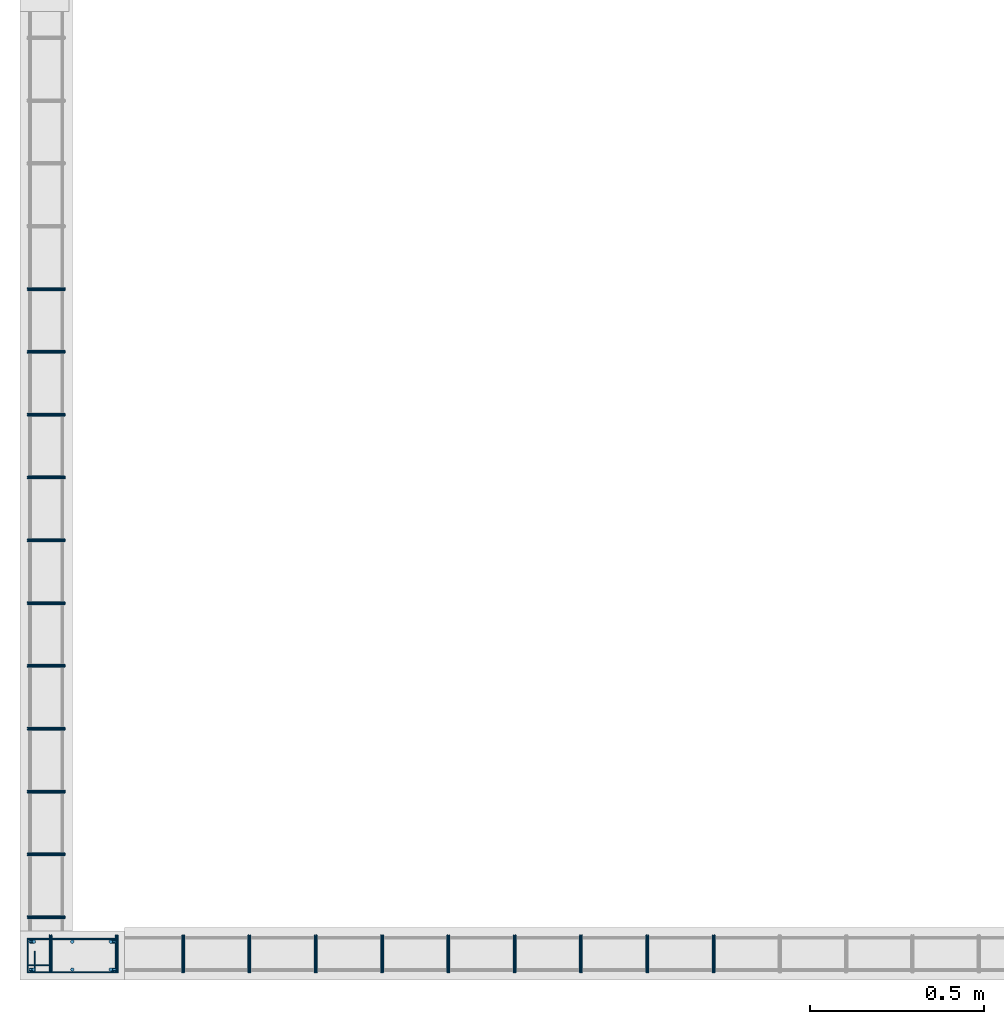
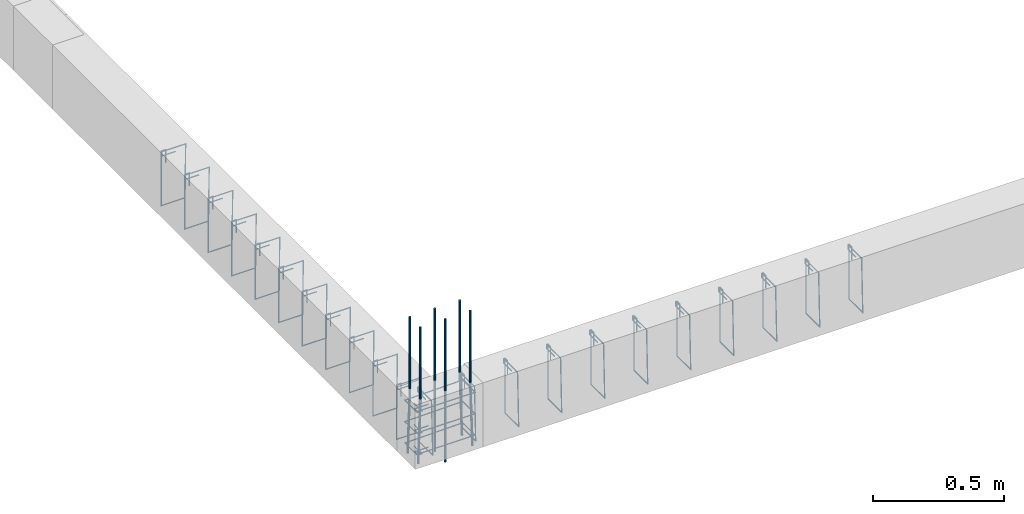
# One storey, part 17 of 150: 31 reinforcing bars.
"""IFC4 building model written with IfcOpenShell, lengths in centimetres."""

import ifcopenshell
import ifcopenshell.guid

model = None  # the IFC model being written
_history = None  # IfcOwnerHistory: only IFC2X3 demands one
_inside = {}  # id of a spatial element -> (the spatial element, [elements in it])
_under = {}  # id of a project, library or spatial element -> (it, [spatial elements below it])
_declared = {}  # id of a project -> (the project, [libraries it declares])
_typed = {}  # id of a type object -> (the type object, [elements of that type])
_made_of = {}  # id of a material, layer set ... -> (it, [elements and type objects made of it])


def new_model(schema):
    """Start an empty IFC model of exactly this schema.

    Asked for "IFC4X3", IfcOpenShell would pick the latest addendum, in which some entities
    have other attributes; the version numbers below select the first issue.
    IFC2X3 requires an IfcOwnerHistory on every rooted entity: one is made here for all.
    """
    global model, _history
    if schema == "IFC4X3":
        model = ifcopenshell.file(schema_version=(4, 3, 0, 0))
    else:
        model = ifcopenshell.file(schema=schema)
    _inside.clear()
    _under.clear()
    _declared.clear()
    _typed.clear()
    _made_of.clear()
    _history = None
    if model.schema == "IFC2X3":
        org = make("IfcOrganization", Name="unknown")
        user = make(
            "IfcPersonAndOrganization",
            ThePerson=make("IfcPerson", FamilyName="unknown"),
            TheOrganization=org,
        )
        app = make(
            "IfcApplication",
            ApplicationDeveloper=org,
            Version="unknown",
            ApplicationFullName="unknown",
            ApplicationIdentifier="unknown",
        )
        _history = make(
            "IfcOwnerHistory",
            OwningUser=user,
            OwningApplication=app,
            ChangeAction="ADDED",
            CreationDate=0,
        )
    return model


def make(cls, **values):
    """One entity of the class cls with the attributes given. An attribute that is None is left unset."""
    return model.create_entity(
        cls, **{name: value for name, value in values.items() if value is not None}
    )


def entity(cls, *values):
    """Any entity or typed value of the class cls, its attributes in the order of the schema. None: left unset."""
    e = model.create_entity(cls)
    for i, value in enumerate(values):
        if value is not None:
            e[i] = value
    return e


def rooted(cls, **values):
    """An entity with a GlobalId (a new one), such as an element, a storey or a relation."""
    return make(cls, GlobalId=ifcopenshell.guid.new(), OwnerHistory=_history, **values)


def si_unit(unit_type, name, prefix=None):
    """IfcSIUnit, for example si_unit("LENGTHUNIT", "METRE", prefix="MILLI")."""
    return make("IfcSIUnit", UnitType=unit_type, Prefix=prefix, Name=name)


def derived_unit(unit_type, elements):
    """IfcDerivedUnit: a product of units, each with its exponent."""
    return make(
        "IfcDerivedUnit",
        Elements=[
            make("IfcDerivedUnitElement", Unit=unit, Exponent=power)
            for unit, power in elements
        ],
        UnitType=unit_type,
    )


def assignment(units):
    """IfcUnitAssignment: the units of a project."""
    return None if units is None else make("IfcUnitAssignment", Units=units)


def point(xyz):
    """IfcCartesianPoint."""
    return None if xyz is None else make("IfcCartesianPoint", Coordinates=xyz)


def direction(xyz):
    """IfcDirection."""
    return None if xyz is None else make("IfcDirection", DirectionRatios=xyz)


def frame(location, z_axis=None, x_axis=None):
    """IfcAxis2Placement3D, a coordinate frame: its origin and axes. An axis left out is left unset."""
    return make(
        "IfcAxis2Placement3D",
        Location=point(location),
        Axis=direction(z_axis),
        RefDirection=direction(x_axis),
    )


def origin_with_axes():
    """The frame at (0, 0, 0) with the z axis (0, 0, 1) and the x axis (1, 0, 0) written out."""
    return frame((0.0, 0.0, 0.0), z_axis=(0.0, 0.0, 1.0), x_axis=(1.0, 0.0, 0.0))


def place(relative_to, where):
    """IfcLocalPlacement: puts the frame where relative to a parent placement (None: the world)."""
    return make(
        "IfcLocalPlacement", PlacementRelTo=relative_to, RelativePlacement=where
    )


def context(
    kind, dimensions, precision=None, world=None, true_north=None, identifier=None
):
    """IfcGeometricRepresentationContext, for example the 3D "Model" context."""
    return make(
        "IfcGeometricRepresentationContext",
        ContextIdentifier=identifier,
        ContextType=kind,
        CoordinateSpaceDimension=dimensions,
        Precision=precision,
        WorldCoordinateSystem=world,
        TrueNorth=true_north,
    )


def project(units=None, contexts=None):
    """IfcProject with its units and contexts."""
    return rooted(
        "IfcProject",
        Name="project",
        RepresentationContexts=contexts,
        UnitsInContext=assignment(units),
    )


def spatial(cls, under=None, at=None, **own):
    """A site, building, storey or space (cls), placed at a placement, below another one or the project."""
    s = rooted(cls, ObjectPlacement=at, **own)
    if under is not None:
        _under.setdefault(under.id(), (under, []))[1].append(s)
    return s


def shape(context_of_items, identifier, shape_type, items):
    """IfcShapeRepresentation: the items that make up one representation, for example the "Body"."""
    return make(
        "IfcShapeRepresentation",
        ContextOfItems=context_of_items,
        RepresentationIdentifier=identifier,
        RepresentationType=shape_type,
        Items=items,
    )


def source(mapping_origin, context_of_items, identifier, shape_type, items):
    """IfcRepresentationMap: a shape defined once, which mapped items show again and again."""
    return make(
        "IfcRepresentationMap",
        MappingOrigin=mapping_origin,
        MappedRepresentation=shape(context_of_items, identifier, shape_type, items),
    )


def transform(
    local_origin,
    x_axis=None,
    y_axis=None,
    z_axis=None,
    scale=None,
    scale2=None,
    scale3=None,
    uniform=True,
):
    """IfcCartesianTransformationOperator3D, or its non-uniform kind. x_axis, y_axis, z_axis: its Axis1, 2, 3."""
    if uniform:
        return make(
            "IfcCartesianTransformationOperator3D",
            Axis1=direction(x_axis),
            Axis2=direction(y_axis),
            LocalOrigin=point(local_origin),
            Scale=scale,
            Axis3=direction(z_axis),
        )
    return make(
        "IfcCartesianTransformationOperator3DnonUniform",
        Axis1=direction(x_axis),
        Axis2=direction(y_axis),
        LocalOrigin=point(local_origin),
        Scale=scale,
        Axis3=direction(z_axis),
        Scale2=scale2,
        Scale3=scale3,
    )


def mapped(mapping_source, mapping_target):
    """IfcMappedItem: shows the shape of a source again, moved by a transform."""
    return make(
        "IfcMappedItem", MappingSource=mapping_source, MappingTarget=mapping_target
    )


def made_of(thing, what):
    """Note that an element or type object is made of a material, layer set ...; save() writes the relation."""
    if what is not None:
        _made_of.setdefault(what.id(), (what, []))[1].append(thing)
    return thing


def element(
    cls,
    number,
    at=None,
    inside=None,
    cuts=None,
    type_object=None,
    material=None,
    context=None,
    identifier="Body",
    shape_type=None,
    held_by="IfcProductDefinitionShape",
    body=None,
    shapes=None,
    **own,
):
    """One element of the class cls, such as IfcWall. Its Tag is "e" and its number.

    at: its placement. inside: the storey or other place that contains it. cuts: it is an
    opening in that element (IfcRelVoidsElement). A single representation is given by context,
    identifier, shape_type and body (its items); several are given by shapes. held_by: the class
    of the entity that holds the representations. save() writes the other relations.
    """
    e = rooted(cls, Tag="e%d" % number, ObjectPlacement=at, **own)
    if body is not None:
        shapes = [shape(context, identifier, shape_type, body)]
    if shapes is not None:
        e.Representation = make(held_by, Representations=shapes)
    if inside is not None:
        _inside.setdefault(inside.id(), (inside, []))[1].append(e)
    if cuts is not None:
        rooted(
            "IfcRelVoidsElement", RelatingBuildingElement=cuts, RelatedOpeningElement=e
        )
    if type_object is not None:
        _typed.setdefault(type_object.id(), (type_object, []))[1].append(e)
    return made_of(e, material)


def aggregate(whole, parts):
    """IfcRelAggregates: a whole, such as a stair, and the parts it consists of."""
    return rooted("IfcRelAggregates", RelatingObject=whole, RelatedObjects=parts)


def save(model, path):
    """Write the relations noted so far, then the file.

    IfcRelAggregates (storeys below a building ...), IfcRelContainedInSpatialStructure (elements
    in a storey), IfcRelDefinesByType, IfcRelAssociatesMaterial and IfcRelDeclares: one each for
    every whole, place, type object, material and project.
    """
    for whole, parts in _under.values():
        aggregate(whole, parts)
    for where, things in _inside.values():
        rooted(
            "IfcRelContainedInSpatialStructure",
            RelatedElements=things,
            RelatingStructure=where,
        )
    for kind, things in _typed.values():
        rooted("IfcRelDefinesByType", RelatedObjects=things, RelatingType=kind)
    for what, things in _made_of.values():
        rooted("IfcRelAssociatesMaterial", RelatedObjects=things, RelatingMaterial=what)
    for by, libraries in _declared.values():
        rooted("IfcRelDeclares", RelatingContext=by, RelatedDefinitions=libraries)
    model.write(path)


model = new_model("IFC4")

# Units and contexts
model_context = context("Model", 3, precision=1e-05, world=origin_with_axes(), identifier="Body")
ifc_project = project(units=[si_unit("LENGTHUNIT", "METRE", prefix="CENTI"), si_unit("VOLUMEUNIT", "CUBIC_METRE"), si_unit("AREAUNIT", "SQUARE_METRE"), si_unit("POWERUNIT", "WATT"), si_unit("LUMINOUSFLUXUNIT", "LUMEN"), si_unit("ELECTRICCURRENTUNIT", "AMPERE"), si_unit("PRESSUREUNIT", "PASCAL", prefix="KILO"), si_unit("MASSUNIT", "GRAM", prefix="KILO"), si_unit("PLANEANGLEUNIT", "RADIAN"), derived_unit("VOLUMETRICFLOWRATEUNIT", [(si_unit("LENGTHUNIT", "METRE"), 3), (si_unit("TIMEUNIT", "SECOND"), -1)])], contexts=[model_context])

# Site, building, storey
site_placement = place(None, frame((-4000.0, 0.0, 0.0), z_axis=(0.0, 0.0, 1.0), x_axis=(1.0, 0.0, 0.0)))
site = spatial("IfcSite", under=ifc_project, at=site_placement, Name="PADRÃO")
building_placement = place(site_placement, frame((0.0, 0.0, -14.0)))
building = spatial("IfcBuilding", under=site, at=building_placement, Name="CRECHE PRÉ-ESCOLA TIPO 2")
placement = place(building_placement, origin_with_axes())
storey_placement = place(placement, frame((0.0, 0.0, 30.0), z_axis=(0.0, 0.0, 1.0), x_axis=(1.0, 0.0, 0.0)))
storey = spatial("IfcBuildingStorey", under=building, at=storey_placement, Name="VIGA BALDRAME", CompositionType="ELEMENT", Elevation=16.0)

# Reinforcing bars
shared_shape_1 = source(origin_with_axes(), model_context, "Body", "AdvancedSweptSolid", [
    entity("IfcSweptDiskSolid", entity("IfcCompositeCurve", [entity("IfcCompositeCurveSegment", "CONTINUOUS", True, entity("IfcPolyline", [entity("IfcCartesianPoint", [4.25, 21.75, 0.0]), entity("IfcCartesianPoint", [4.25, 27.75, 0.0])])), entity("IfcCompositeCurveSegment", "CONTINUOUS", True, entity("IfcPolyline", [entity("IfcCartesianPoint", [4.25, 27.75, 0.0]), entity("IfcCartesianPoint", [2.25, 27.75, 0.0])])), entity("IfcCompositeCurveSegment", "CONTINUOUS", True, entity("IfcPolyline", [entity("IfcCartesianPoint", [2.25, 27.75, 0.0]), entity("IfcCartesianPoint", [2.25, 2.25, 0.0])])), entity("IfcCompositeCurveSegment", "CONTINUOUS", True, entity("IfcPolyline", [entity("IfcCartesianPoint", [2.25, 2.25, 0.0]), entity("IfcCartesianPoint", [11.75, 2.25, 0.0])])), entity("IfcCompositeCurveSegment", "CONTINUOUS", True, entity("IfcPolyline", [entity("IfcCartesianPoint", [11.75, 2.25, 0.0]), entity("IfcCartesianPoint", [11.75, 27.75, -0.5])])), entity("IfcCompositeCurveSegment", "CONTINUOUS", True, entity("IfcPolyline", [entity("IfcCartesianPoint", [11.75, 27.75, -0.5]), entity("IfcCartesianPoint", [2.25, 27.75, -0.5])])), entity("IfcCompositeCurveSegment", "CONTINUOUS", True, entity("IfcPolyline", [entity("IfcCartesianPoint", [2.25, 27.75, -0.5]), entity("IfcCartesianPoint", [2.25, 25.75, -0.5])])), entity("IfcCompositeCurveSegment", "CONTINUOUS", True, entity("IfcPolyline", [entity("IfcCartesianPoint", [2.25, 25.75, -0.5]), entity("IfcCartesianPoint", [8.25, 25.75, -0.5])]))], False), 0.25),
])
for number, where, z_axis, x_axis, name in (
    (1, (31.5, 2.0, -5.0), (0.0, 0.0, 1.0), (0.0, 1.0, 0.0), "P155 - Estribo"),
    (2, (31.5, 2.0, -25.0), (0.0, 0.0, 1.0), (0.0, 1.0, 0.0), "P155 - Estribo"),
    (3, (31.5, 2.0, -15.0), (0.0, 0.0, 1.0), (0.0, 1.0, 0.0), "P155 - Estribo"),
):
    element("IfcReinforcingBar", number, at=place(storey_placement, frame(where, z_axis=z_axis, x_axis=x_axis)), inside=storey, Name=name, BarLength=0.0, CrossSectionArea=1.9634954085e-05, NominalDiameter=0.5, PredefinedType="MAIN", context=model_context, shape_type="MappedRepresentation", body=[
        mapped(shared_shape_1, transform((0.0, 0.0, 0.0), scale=1.0)),
    ])
shared_shape_2 = source(origin_with_axes(), model_context, "Body", "AdvancedSweptSolid", [
    entity("IfcSweptDiskSolid", entity("IfcCompositeCurve", [entity("IfcCompositeCurveSegment", "CONTINUOUS", True, entity("IfcPolyline", [entity("IfcCartesianPoint", [2.0, -6.0, 0.0]), entity("IfcCartesianPoint", [2.0, 0.0, 0.0])])), entity("IfcCompositeCurveSegment", "CONTINUOUS", True, entity("IfcPolyline", [entity("IfcCartesianPoint", [2.0, 0.0, 0.0]), entity("IfcCartesianPoint", [0.0, 0.0, 0.0])])), entity("IfcCompositeCurveSegment", "CONTINUOUS", True, entity("IfcPolyline", [entity("IfcCartesianPoint", [0.0, 0.0, 0.0]), entity("IfcCartesianPoint", [0.0, -25.5, 0.0])])), entity("IfcCompositeCurveSegment", "CONTINUOUS", True, entity("IfcPolyline", [entity("IfcCartesianPoint", [0.0, -25.5, 0.0]), entity("IfcCartesianPoint", [10.5, -25.5, 0.0])])), entity("IfcCompositeCurveSegment", "CONTINUOUS", True, entity("IfcPolyline", [entity("IfcCartesianPoint", [10.5, -25.5, 0.0]), entity("IfcCartesianPoint", [10.5, 0.0, 0.5])])), entity("IfcCompositeCurveSegment", "CONTINUOUS", True, entity("IfcPolyline", [entity("IfcCartesianPoint", [10.5, 0.0, 0.5]), entity("IfcCartesianPoint", [0.0, 0.0, 0.5])])), entity("IfcCompositeCurveSegment", "CONTINUOUS", True, entity("IfcPolyline", [entity("IfcCartesianPoint", [0.0, 0.0, 0.5]), entity("IfcCartesianPoint", [0.0, -2.0, 0.5])])), entity("IfcCompositeCurveSegment", "CONTINUOUS", True, entity("IfcPolyline", [entity("IfcCartesianPoint", [0.0, -2.0, 0.5]), entity("IfcCartesianPoint", [6.0, -2.0, 0.5])]))], False), 0.25),
])
for number, where, z_axis, x_axis, name in (
    (4, (3.75, 128.25, -2.25), (0.0, -1.0, 0.0), (1.0, 0.0, 0.0), "V159 - Estribo"),
    (5, (3.75, 110.25, -2.25), (0.0, -1.0, 0.0), (1.0, 0.0, 0.0), "V159 - Estribo"),
    (6, (3.75, 92.25, -2.25), (0.0, -1.0, 0.0), (1.0, 0.0, 0.0), "V159 - Estribo"),
    (7, (3.75, 74.25, -2.25), (0.0, -1.0, 0.0), (1.0, 0.0, 0.0), "V159 - Estribo"),
    (8, (3.75, 56.25, -2.25), (0.0, -1.0, 0.0), (1.0, 0.0, 0.0), "V159 - Estribo"),
    (9, (3.75, 38.25, -2.25), (0.0, -1.0, 0.0), (1.0, 0.0, 0.0), "V159 - Estribo"),
    (10, (3.75, 20.25, -2.25), (0.0, -1.0, 0.0), (1.0, 0.0, 0.0), "V159 - Estribo"),
    (11, (3.75, 200.25, -2.25), (0.0, -1.0, 0.0), (1.0, 0.0, 0.0), "V159 - Estribo"),
    (12, (3.75, 182.25, -2.25), (0.0, -1.0, 0.0), (1.0, 0.0, 0.0), "V159 - Estribo"),
    (13, (3.75, 164.25, -2.25), (0.0, -1.0, 0.0), (1.0, 0.0, 0.0), "V159 - Estribo"),
    (14, (3.75, 146.25, -2.25), (0.0, -1.0, 0.0), (1.0, 0.0, 0.0), "V159 - Estribo"),
):
    element("IfcReinforcingBar", number, at=place(storey_placement, frame(where, z_axis=z_axis, x_axis=x_axis)), inside=storey, Name=name, BarLength=0.0, CrossSectionArea=1.9634954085e-05, NominalDiameter=0.5, PredefinedType="MAIN", context=model_context, shape_type="MappedRepresentation", body=[
        mapped(shared_shape_2, transform((0.0, 0.0, 0.0), scale=1.0)),
    ])
shared_shape_3 = source(origin_with_axes(), model_context, "Body", "AdvancedSweptSolid", [
    entity("IfcSweptDiskSolid", entity("IfcCompositeCurve", [entity("IfcCompositeCurveSegment", "CONTINUOUS", True, entity("IfcPolyline", [entity("IfcCartesianPoint", [2.0, -6.0, 0.0]), entity("IfcCartesianPoint", [2.0, 0.0, 0.0])])), entity("IfcCompositeCurveSegment", "CONTINUOUS", True, entity("IfcPolyline", [entity("IfcCartesianPoint", [2.0, 0.0, 0.0]), entity("IfcCartesianPoint", [0.0, 0.0, 0.0])])), entity("IfcCompositeCurveSegment", "CONTINUOUS", True, entity("IfcPolyline", [entity("IfcCartesianPoint", [0.0, 0.0, 0.0]), entity("IfcCartesianPoint", [0.0, -25.5, 0.0])])), entity("IfcCompositeCurveSegment", "CONTINUOUS", True, entity("IfcPolyline", [entity("IfcCartesianPoint", [0.0, -25.5, 0.0]), entity("IfcCartesianPoint", [10.5, -25.5, 0.0])])), entity("IfcCompositeCurveSegment", "CONTINUOUS", True, entity("IfcPolyline", [entity("IfcCartesianPoint", [10.5, -25.5, 0.0]), entity("IfcCartesianPoint", [10.5, 0.0, 0.5])])), entity("IfcCompositeCurveSegment", "CONTINUOUS", True, entity("IfcPolyline", [entity("IfcCartesianPoint", [10.5, 0.0, 0.5]), entity("IfcCartesianPoint", [0.0, 0.0, 0.5])])), entity("IfcCompositeCurveSegment", "CONTINUOUS", True, entity("IfcPolyline", [entity("IfcCartesianPoint", [0.0, 0.0, 0.5]), entity("IfcCartesianPoint", [0.0, -2.0, 0.5])])), entity("IfcCompositeCurveSegment", "CONTINUOUS", True, entity("IfcPolyline", [entity("IfcCartesianPoint", [0.0, -2.0, 0.5]), entity("IfcCartesianPoint", [6.0, -2.0, 0.5])]))], False), 0.25),
])
for number, where, z_axis, x_axis, name in (
    (15, (200.5, 14.75, -2.25), (-1.0, 0.0, 0.0), (0.0, -1.0, 0.0), "V158 - Estribo"),
    (16, (181.5, 14.75, -2.25), (-1.0, 0.0, 0.0), (0.0, -1.0, 0.0), "V158 - Estribo"),
    (17, (162.5, 14.75, -2.25), (-1.0, 0.0, 0.0), (0.0, -1.0, 0.0), "V158 - Estribo"),
    (18, (143.5, 14.75, -2.25), (-1.0, 0.0, 0.0), (0.0, -1.0, 0.0), "V158 - Estribo"),
    (19, (124.5, 14.75, -2.25), (-1.0, 0.0, 0.0), (0.0, -1.0, 0.0), "V158 - Estribo"),
    (20, (105.5, 14.75, -2.25), (-1.0, 0.0, 0.0), (0.0, -1.0, 0.0), "V158 - Estribo"),
    (21, (86.5, 14.75, -2.25), (-1.0, 0.0, 0.0), (0.0, -1.0, 0.0), "V158 - Estribo"),
    (22, (67.5, 14.75, -2.25), (-1.0, 0.0, 0.0), (0.0, -1.0, 0.0), "V158 - Estribo"),
    (23, (48.5, 14.75, -2.25), (-1.0, 0.0, 0.0), (0.0, -1.0, 0.0), "V158 - Estribo"),
    (24, (29.5, 14.75, -2.25), (-1.0, 0.0, 0.0), (0.0, -1.0, 0.0), "V158 - Estribo"),
    (25, (10.5, 14.75, -2.25), (-1.0, 0.0, 0.0), (0.0, -1.0, 0.0), "V158 - Estribo"),
):
    element("IfcReinforcingBar", number, at=place(storey_placement, frame(where, z_axis=z_axis, x_axis=x_axis)), inside=storey, Name=name, BarLength=0.0, CrossSectionArea=1.9634954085e-05, NominalDiameter=0.5, PredefinedType="MAIN", context=model_context, shape_type="MappedRepresentation", body=[
        mapped(shared_shape_3, transform((0.0, 0.0, 0.0), scale=1.0)),
    ])
for number, where, z_axis, x_axis, name in (
    (26, (16.5, 13.0, 33.3573001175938), (0.0, 0.0, 1.0), (1.0, 0.0, 0.0), "P155 - Longitudinal"),
    (27, (16.5, 5.0, 33.3573001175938), (0.0, 0.0, 1.0), (1.0, 0.0, 0.0), "P155 - Longitudinal"),
):
    element("IfcReinforcingBar", number, at=place(storey_placement, frame(where, z_axis=z_axis, x_axis=x_axis)), inside=storey, Name=name, BarLength=0.0, CrossSectionArea=7.853981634e-05, NominalDiameter=1.0, PredefinedType="MAIN", context=model_context, shape_type="AdvancedSweptSolid", body=[
        entity("IfcSweptDiskSolid", entity("IfcCompositeCurve", [entity("IfcCompositeCurveSegment", "CONTINUOUS", True, entity("IfcPolyline", [entity("IfcCartesianPoint", [0.0, 0.0, -66.7146002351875]), entity("IfcCartesianPoint", [0.0, 0.0, 0.0])]))], False), 0.5),
    ])
for number, where, z_axis, x_axis, name in (
    (28, (5.00013877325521, 5.0, 33.3573001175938), (0.0, 0.0, 1.0), (1.0, 0.0, 0.0), "P155 - Longitudinal"),
    (29, (5.00013877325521, 13.0, 33.3573001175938), (0.0, 0.0, 1.0), (1.0, 0.0, 0.0), "P155 - Longitudinal"),
):
    element("IfcReinforcingBar", number, at=place(storey_placement, frame(where, z_axis=z_axis, x_axis=x_axis)), inside=storey, Name=name, BarLength=0.0, CrossSectionArea=7.853981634e-05, NominalDiameter=1.0, PredefinedType="MAIN", context=model_context, shape_type="AdvancedSweptSolid", body=[
        entity("IfcSweptDiskSolid", entity("IfcCompositeCurve", [entity("IfcCompositeCurveSegment", "CONTINUOUS", True, entity("IfcPolyline", [entity("IfcCartesianPoint", [-0.500138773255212, 0.0, -63.3573001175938]), entity("IfcCartesianPoint", [0.499861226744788, 0.0, -33.3573001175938])])), entity("IfcCompositeCurveSegment", "CONTINUOUS", True, entity("IfcPolyline", [entity("IfcCartesianPoint", [0.499861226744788, 0.0, -33.3573001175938]), entity("IfcCartesianPoint", [0.499861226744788, 0.0, 0.0])]))], False), 0.5),
    ])
for number, where, z_axis, x_axis, name in (
    (30, (27.9998612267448, 13.0, 33.3573001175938), (0.0, 0.0, 1.0), (1.0, 0.0, 0.0), "P155 - Longitudinal"),
    (31, (27.9998612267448, 5.0, 33.3573001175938), (0.0, 0.0, 1.0), (1.0, 0.0, 0.0), "P155 - Longitudinal"),
):
    element("IfcReinforcingBar", number, at=place(storey_placement, frame(where, z_axis=z_axis, x_axis=x_axis)), inside=storey, Name=name, BarLength=0.0, CrossSectionArea=7.853981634e-05, NominalDiameter=1.0, PredefinedType="MAIN", context=model_context, shape_type="AdvancedSweptSolid", body=[
        entity("IfcSweptDiskSolid", entity("IfcCompositeCurve", [entity("IfcCompositeCurveSegment", "CONTINUOUS", True, entity("IfcPolyline", [entity("IfcCartesianPoint", [0.500138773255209, 0.0, -63.3573001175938]), entity("IfcCartesianPoint", [-0.499861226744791, 0.0, -33.3573001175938])])), entity("IfcCompositeCurveSegment", "CONTINUOUS", True, entity("IfcPolyline", [entity("IfcCartesianPoint", [-0.499861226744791, 0.0, -33.3573001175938]), entity("IfcCartesianPoint", [-0.499861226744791, 0.0, 0.0])]))], False), 0.5),
    ])

save(model, "model.ifc")
